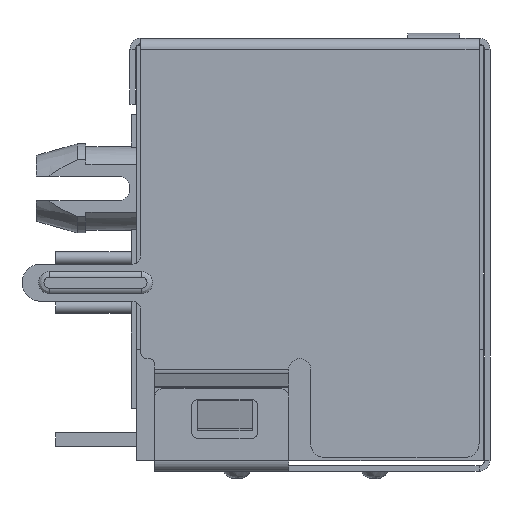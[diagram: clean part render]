
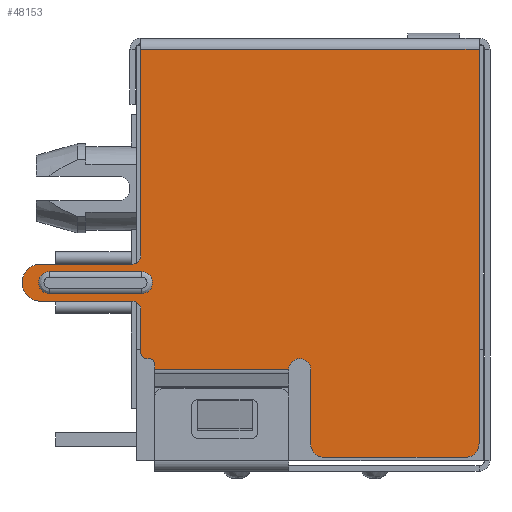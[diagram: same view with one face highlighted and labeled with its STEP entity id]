
A CAD part, front view. The second image highlights one B-rep face of the part: STEP entity #48153.
In plain terms, the highlighted planar face has unit normal (0, -1, 0) as drawn and (1, 0, 0) by its records, which use the part's own axes.
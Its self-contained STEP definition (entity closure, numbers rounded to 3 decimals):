
#42153=DIRECTION('',(0.,0.,1.));
#42154=VECTOR('',#42153,12.3);
#42155=CARTESIAN_POINT('',(16.13,-0.2,-12.3));
#42156=LINE('',#42155,#42154);
#42171=DIRECTION('',(0.,-1.,0.));
#42172=VECTOR('',#42171,7.515);
#42173=CARTESIAN_POINT('',(16.13,-0.2,0.));
#42174=LINE('',#42173,#42172);
#42175=DIRECTION('',(0.,1.,0.));
#42176=VECTOR('',#42175,14.35);
#42177=CARTESIAN_POINT('',(16.13,-14.55,-12.3));
#42178=LINE('',#42177,#42176);
#42179=CARTESIAN_POINT('',(16.13,-14.55,-11.8));
#42180=DIRECTION('',(1.,0.,0.));
#42181=DIRECTION('',(0.,-1.,0.));
#42182=AXIS2_PLACEMENT_3D('',#42179,#42180,#42181);
#42184=DIRECTION('',(0.,0.,-1.));
#42185=VECTOR('',#42184,5.12);
#42186=CARTESIAN_POINT('',(16.13,-15.05,-6.68));
#42187=LINE('',#42186,#42185);
#42188=CARTESIAN_POINT('',(16.13,-14.55,-6.68));
#42189=DIRECTION('',(1.,0.,0.));
#42190=DIRECTION('',(0.,0.,1.));
#42191=AXIS2_PLACEMENT_3D('',#42188,#42189,#42190);
#42193=DIRECTION('',(0.,-1.,0.));
#42194=VECTOR('',#42193,2.7);
#42195=CARTESIAN_POINT('',(16.13,-11.85,-6.18));
#42196=LINE('',#42195,#42194);
#42197=CARTESIAN_POINT('',(16.13,-11.85,-5.78));
#42198=DIRECTION('',(-1.,0.,0.));
#42199=DIRECTION('',(0.,0.,1.));
#42200=AXIS2_PLACEMENT_3D('',#42197,#42198,#42199);
#42202=DIRECTION('',(0.,-1.,0.));
#42203=VECTOR('',#42202,0.18);
#42204=CARTESIAN_POINT('',(16.13,-11.67,-0.5));
#42205=LINE('',#42204,#42203);
#42206=CARTESIAN_POINT('',(16.13,-11.67,-0.28));
#42207=DIRECTION('',(-1.,0.,0.));
#42208=DIRECTION('',(0.,1.,0.));
#42209=AXIS2_PLACEMENT_3D('',#42206,#42207,#42208);
#42211=DIRECTION('',(0.,0.,-1.));
#42212=VECTOR('',#42211,0.06);
#42213=CARTESIAN_POINT('',(16.13,-11.45,-0.22));
#42214=LINE('',#42213,#42212);
#42215=CARTESIAN_POINT('',(16.13,-11.23,-0.22));
#42216=DIRECTION('',(1.,0.,0.));
#42217=DIRECTION('',(0.,0.,1.));
#42218=AXIS2_PLACEMENT_3D('',#42215,#42216,#42217);
#42220=DIRECTION('',(0.,-1.,0.));
#42221=VECTOR('',#42220,1.565);
#42222=CARTESIAN_POINT('',(16.13,-9.665,0.));
#42223=LINE('',#42222,#42221);
#42224=CARTESIAN_POINT('',(16.13,-9.665,0.3));
#42225=DIRECTION('',(-1.,0.,0.));
#42226=DIRECTION('',(0.,1.,0.));
#42227=AXIS2_PLACEMENT_3D('',#42224,#42225,#42226);
#42229=DIRECTION('',(0.,0.,-1.));
#42230=VECTOR('',#42229,3.35);
#42231=CARTESIAN_POINT('',(16.13,-9.365,3.65));
#42232=LINE('',#42231,#42230);
#42233=CARTESIAN_POINT('',(16.13,-8.69,3.65));
#42234=DIRECTION('',(1.,0.,0.));
#42235=DIRECTION('',(0.,1.,0.));
#42236=AXIS2_PLACEMENT_3D('',#42233,#42234,#42235);
#42238=DIRECTION('',(0.,0.,1.));
#42239=VECTOR('',#42238,3.35);
#42240=CARTESIAN_POINT('',(16.13,-8.015,0.3));
#42241=LINE('',#42240,#42239);
#42242=CARTESIAN_POINT('',(16.13,-7.715,0.3));
#42243=DIRECTION('',(-1.,0.,0.));
#42244=DIRECTION('',(0.,0.,-1.));
#42245=AXIS2_PLACEMENT_3D('',#42242,#42243,#42244);
#42247=CARTESIAN_POINT('',(16.13,-8.69,3.325));
#42248=DIRECTION('',(1.,0.,0.));
#42249=DIRECTION('',(0.,1.,0.));
#42250=AXIS2_PLACEMENT_3D('',#42247,#42248,#42249);
#42252=DIRECTION('',(0.,0.,-1.));
#42253=VECTOR('',#42252,3.35);
#42254=CARTESIAN_POINT('',(16.13,-9.09,3.325));
#42255=LINE('',#42254,#42253);
#42256=CARTESIAN_POINT('',(16.13,-8.69,-0.025));
#42257=DIRECTION('',(1.,0.,0.));
#42258=DIRECTION('',(0.,-1.,0.));
#42259=AXIS2_PLACEMENT_3D('',#42256,#42257,#42258);
#42261=DIRECTION('',(0.,0.,1.));
#42262=VECTOR('',#42261,3.35);
#42263=CARTESIAN_POINT('',(16.13,-8.29,-0.025));
#42264=LINE('',#42263,#42262);
#42323=DIRECTION('',(0.,0.,1.));
#42324=VECTOR('',#42323,4.88);
#42325=CARTESIAN_POINT('',(16.13,-11.85,-5.38));
#42326=LINE('',#42325,#42324);
#44165=CARTESIAN_POINT('',(16.13,-11.23,0.));
#44166=CARTESIAN_POINT('',(16.13,-11.45,-0.22));
#44167=VERTEX_POINT('',#44165);
#44168=VERTEX_POINT('',#44166);
#44169=CARTESIAN_POINT('',(16.13,-11.45,-0.28));
#44170=VERTEX_POINT('',#44169);
#44171=CARTESIAN_POINT('',(16.13,-11.67,-0.5));
#44172=VERTEX_POINT('',#44171);
#44173=CARTESIAN_POINT('',(16.13,-11.85,-0.5));
#44174=VERTEX_POINT('',#44173);
#44175=CARTESIAN_POINT('',(16.13,-11.85,-5.38));
#44176=CARTESIAN_POINT('',(16.13,-11.85,-6.18));
#44177=VERTEX_POINT('',#44175);
#44178=VERTEX_POINT('',#44176);
#44179=CARTESIAN_POINT('',(16.13,-14.55,-6.18));
#44180=VERTEX_POINT('',#44179);
#44181=CARTESIAN_POINT('',(16.13,-15.05,-6.68));
#44182=VERTEX_POINT('',#44181);
#44183=CARTESIAN_POINT('',(16.13,-15.05,-11.8));
#44184=VERTEX_POINT('',#44183);
#44185=CARTESIAN_POINT('',(16.13,-14.55,-12.3));
#44186=VERTEX_POINT('',#44185);
#44187=CARTESIAN_POINT('',(16.13,-0.2,-12.3));
#44188=VERTEX_POINT('',#44187);
#44369=CARTESIAN_POINT('',(16.13,-0.2,0.));
#44370=CARTESIAN_POINT('',(16.13,-7.715,0.));
#44371=VERTEX_POINT('',#44369);
#44372=VERTEX_POINT('',#44370);
#44373=CARTESIAN_POINT('',(16.13,-8.015,0.3));
#44374=VERTEX_POINT('',#44373);
#44375=CARTESIAN_POINT('',(16.13,-8.015,3.65));
#44376=VERTEX_POINT('',#44375);
#44377=CARTESIAN_POINT('',(16.13,-9.365,3.65));
#44378=VERTEX_POINT('',#44377);
#44379=CARTESIAN_POINT('',(16.13,-9.365,0.3));
#44380=VERTEX_POINT('',#44379);
#44381=CARTESIAN_POINT('',(16.13,-9.665,0.));
#44382=VERTEX_POINT('',#44381);
#44405=CARTESIAN_POINT('',(16.13,-8.29,3.325));
#44406=CARTESIAN_POINT('',(16.13,-9.09,3.325));
#44407=VERTEX_POINT('',#44405);
#44408=VERTEX_POINT('',#44406);
#44409=CARTESIAN_POINT('',(16.13,-9.09,-0.025));
#44410=VERTEX_POINT('',#44409);
#44411=CARTESIAN_POINT('',(16.13,-8.29,-0.025));
#44412=VERTEX_POINT('',#44411);
#48099=CARTESIAN_POINT('',(16.13,0.2,-2.922));
#48100=DIRECTION('',(1.,0.,0.));
#48101=DIRECTION('',(0.,-1.,0.));
#48102=AXIS2_PLACEMENT_3D('',#48099,#48100,#48101);
#48103=PLANE('',#48102);
#48105=ORIENTED_EDGE('',*,*,#48104,.F.);
#48106=ORIENTED_EDGE('',*,*,#48090,.F.);
#48108=ORIENTED_EDGE('',*,*,#48107,.F.);
#48110=ORIENTED_EDGE('',*,*,#48109,.F.);
#48112=ORIENTED_EDGE('',*,*,#48111,.F.);
#48114=ORIENTED_EDGE('',*,*,#48113,.F.);
#48116=ORIENTED_EDGE('',*,*,#48115,.F.);
#48118=ORIENTED_EDGE('',*,*,#48117,.F.);
#48120=ORIENTED_EDGE('',*,*,#48119,.T.);
#48122=ORIENTED_EDGE('',*,*,#48121,.F.);
#48124=ORIENTED_EDGE('',*,*,#48123,.F.);
#48126=ORIENTED_EDGE('',*,*,#48125,.F.);
#48128=ORIENTED_EDGE('',*,*,#48127,.F.);
#48130=ORIENTED_EDGE('',*,*,#48129,.F.);
#48132=ORIENTED_EDGE('',*,*,#48131,.F.);
#48134=ORIENTED_EDGE('',*,*,#48133,.F.);
#48136=ORIENTED_EDGE('',*,*,#48135,.F.);
#48138=ORIENTED_EDGE('',*,*,#48137,.F.);
#48140=ORIENTED_EDGE('',*,*,#48139,.F.);
#48141=EDGE_LOOP('',(#48105,#48106,#48108,#48110,#48112,#48114,#48116,#48118,
#48120,#48122,#48124,#48126,#48128,#48130,#48132,#48134,#48136,#48138,#48140));
#48142=FACE_OUTER_BOUND('',#48141,.F.);
#48144=ORIENTED_EDGE('',*,*,#48143,.T.);
#48146=ORIENTED_EDGE('',*,*,#48145,.T.);
#48148=ORIENTED_EDGE('',*,*,#48147,.T.);
#48150=ORIENTED_EDGE('',*,*,#48149,.T.);
#48151=EDGE_LOOP('',(#48144,#48146,#48148,#48150));
#48152=FACE_BOUND('',#48151,.F.);
#48153=ADVANCED_FACE('',(#48142,#48152),#48103,.T.);
#42183=CIRCLE('',#42182,0.5);
#42192=CIRCLE('',#42191,0.5);
#42201=CIRCLE('',#42200,0.4);
#42210=CIRCLE('',#42209,0.22);
#42219=CIRCLE('',#42218,0.22);
#42228=CIRCLE('',#42227,0.3);
#42237=CIRCLE('',#42236,0.675);
#42246=CIRCLE('',#42245,0.3);
#42251=CIRCLE('',#42250,0.4);
#42260=CIRCLE('',#42259,0.4);
#48090=EDGE_CURVE('',#44188,#44371,#42156,.T.);
#48104=EDGE_CURVE('',#44371,#44372,#42174,.T.);
#48107=EDGE_CURVE('',#44186,#44188,#42178,.T.);
#48109=EDGE_CURVE('',#44184,#44186,#42183,.T.);
#48111=EDGE_CURVE('',#44182,#44184,#42187,.T.);
#48113=EDGE_CURVE('',#44180,#44182,#42192,.T.);
#48115=EDGE_CURVE('',#44178,#44180,#42196,.T.);
#48117=EDGE_CURVE('',#44177,#44178,#42201,.T.);
#48119=EDGE_CURVE('',#44177,#44174,#42326,.T.);
#48121=EDGE_CURVE('',#44172,#44174,#42205,.T.);
#48123=EDGE_CURVE('',#44170,#44172,#42210,.T.);
#48125=EDGE_CURVE('',#44168,#44170,#42214,.T.);
#48127=EDGE_CURVE('',#44167,#44168,#42219,.T.);
#48129=EDGE_CURVE('',#44382,#44167,#42223,.T.);
#48131=EDGE_CURVE('',#44380,#44382,#42228,.T.);
#48133=EDGE_CURVE('',#44378,#44380,#42232,.T.);
#48135=EDGE_CURVE('',#44376,#44378,#42237,.T.);
#48137=EDGE_CURVE('',#44374,#44376,#42241,.T.);
#48139=EDGE_CURVE('',#44372,#44374,#42246,.T.);
#48143=EDGE_CURVE('',#44407,#44408,#42251,.T.);
#48145=EDGE_CURVE('',#44408,#44410,#42255,.T.);
#48147=EDGE_CURVE('',#44410,#44412,#42260,.T.);
#48149=EDGE_CURVE('',#44412,#44407,#42264,.T.);
